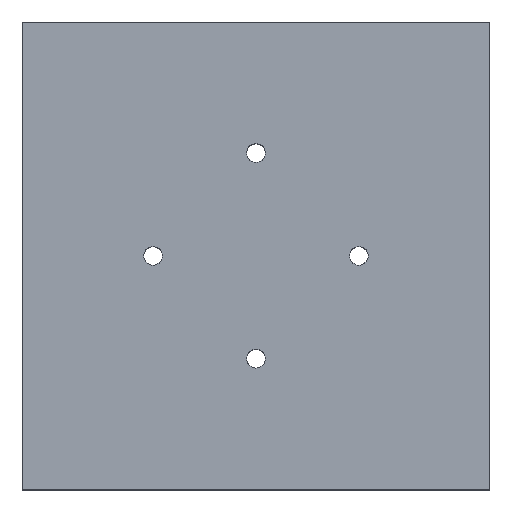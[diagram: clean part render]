
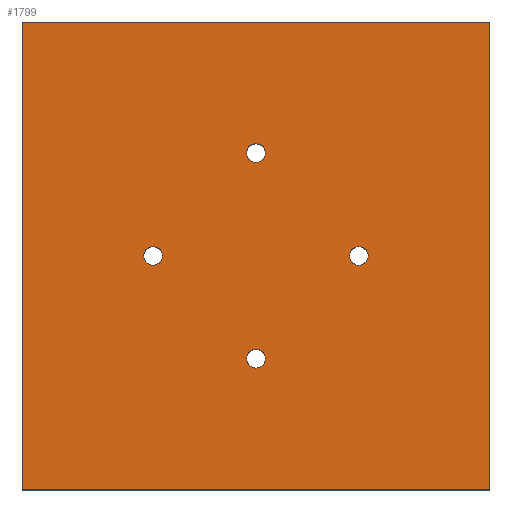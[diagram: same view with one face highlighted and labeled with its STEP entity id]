
A CAD part, top view. The second image highlights one B-rep face of the part: STEP entity #1799.
In plain terms, the highlighted planar face has unit normal (0, 0, 1).
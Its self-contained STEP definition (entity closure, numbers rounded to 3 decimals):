
#52 = CARTESIAN_POINT ( 'NONE',  ( 1., -11., 10. ) ) ;
#59 = CIRCLE ( 'NONE', #264, 1. ) ;
#66 = CARTESIAN_POINT ( 'NONE',  ( 0., -11., 10. ) ) ;
#130 = AXIS2_PLACEMENT_3D ( 'NONE', #1726, #615, #592 ) ;
#148 = CARTESIAN_POINT ( 'NONE',  ( -25., 25., 10. ) ) ;
#172 = EDGE_CURVE ( 'NONE', #1137, #718, #810, .T. ) ;
#188 = CARTESIAN_POINT ( 'NONE',  ( 0., 0., 10. ) ) ;
#232 = CIRCLE ( 'NONE', #130, 1. ) ;
#261 = DIRECTION ( 'NONE',  ( 0., 0., 1. ) ) ;
#264 = AXIS2_PLACEMENT_3D ( 'NONE', #642, #261, #1314 ) ;
#267 = AXIS2_PLACEMENT_3D ( 'NONE', #403, #586, #1249 ) ;
#273 = VECTOR ( 'NONE', #1030, 1000. ) ;
#293 = ORIENTED_EDGE ( 'NONE', *, *, #1225, .F. ) ;
#313 = LINE ( 'NONE', #148, #1347 ) ;
#324 = FACE_BOUND ( 'NONE', #1339, .T. ) ;
#338 = EDGE_CURVE ( 'NONE', #1085, #1662, #2120, .T. ) ;
#347 = CARTESIAN_POINT ( 'NONE',  ( 25., -25., 10. ) ) ;
#350 = AXIS2_PLACEMENT_3D ( 'NONE', #1428, #602, #564 ) ;
#353 = CIRCLE ( 'NONE', #2136, 1. ) ;
#386 = EDGE_LOOP ( 'NONE', ( #1251, #293 ) ) ;
#399 = DIRECTION ( 'NONE',  ( 1., 0., 0. ) ) ;
#403 = CARTESIAN_POINT ( 'NONE',  ( -11., 0., 10. ) ) ;
#404 = EDGE_CURVE ( 'NONE', #1443, #672, #2034, .T. ) ;
#435 = DIRECTION ( 'NONE',  ( 0., 0., 1. ) ) ;
#452 = CIRCLE ( 'NONE', #267, 1. ) ;
#458 = CARTESIAN_POINT ( 'NONE',  ( -25., -25., 10. ) ) ;
#487 = DIRECTION ( 'NONE',  ( 1., 0., 0. ) ) ;
#496 = AXIS2_PLACEMENT_3D ( 'NONE', #1633, #1125, #1308 ) ;
#506 = CARTESIAN_POINT ( 'NONE',  ( 10., 0., 10. ) ) ;
#507 = DIRECTION ( 'NONE',  ( 1., 0., 0. ) ) ;
#511 = CARTESIAN_POINT ( 'NONE',  ( -1., 11., 10. ) ) ;
#515 = VERTEX_POINT ( 'NONE', #1608 ) ;
#564 = DIRECTION ( 'NONE',  ( 1., 0., 0. ) ) ;
#573 = EDGE_CURVE ( 'NONE', #672, #1085, #313, .T. ) ;
#586 = DIRECTION ( 'NONE',  ( 0., 0., 1. ) ) ;
#592 = DIRECTION ( 'NONE',  ( 1., 0., 0. ) ) ;
#602 = DIRECTION ( 'NONE',  ( 0., 0., 1. ) ) ;
#615 = DIRECTION ( 'NONE',  ( 0., 0., 1. ) ) ;
#622 = CARTESIAN_POINT ( 'NONE',  ( -25., 25., 10. ) ) ;
#642 = CARTESIAN_POINT ( 'NONE',  ( 0., 11., 10. ) ) ;
#655 = DIRECTION ( 'NONE',  ( 1., 0., 0. ) ) ;
#660 = CARTESIAN_POINT ( 'NONE',  ( 25., 25., 10. ) ) ;
#672 = VERTEX_POINT ( 'NONE', #660 ) ;
#699 = ORIENTED_EDGE ( 'NONE', *, *, #1891, .F. ) ;
#704 = ORIENTED_EDGE ( 'NONE', *, *, #1082, .T. ) ;
#718 = VERTEX_POINT ( 'NONE', #506 ) ;
#747 = DIRECTION ( 'NONE',  ( 0., 0., 1. ) ) ;
#768 = ORIENTED_EDGE ( 'NONE', *, *, #1632, .F. ) ;
#772 = FACE_BOUND ( 'NONE', #1317, .T. ) ;
#790 = VERTEX_POINT ( 'NONE', #52 ) ;
#796 = DIRECTION ( 'NONE',  ( -1., 0., 0. ) ) ;
#804 = AXIS2_PLACEMENT_3D ( 'NONE', #66, #435, #923 ) ;
#810 = CIRCLE ( 'NONE', #1719, 1. ) ;
#841 = DIRECTION ( 'NONE',  ( 0., 0., 1. ) ) ;
#853 = PLANE ( 'NONE',  #1957 ) ;
#863 = ORIENTED_EDGE ( 'NONE', *, *, #573, .T. ) ;
#872 = EDGE_CURVE ( 'NONE', #1525, #2073, #59, .T. ) ;
#884 = VECTOR ( 'NONE', #1292, 1000. ) ;
#888 = LINE ( 'NONE', #1491, #1536 ) ;
#923 = DIRECTION ( 'NONE',  ( 1., 0., 0. ) ) ;
#964 = CARTESIAN_POINT ( 'NONE',  ( 1., 11., 10. ) ) ;
#980 = ORIENTED_EDGE ( 'NONE', *, *, #338, .T. ) ;
#983 = CARTESIAN_POINT ( 'NONE',  ( -25., 25., 10. ) ) ;
#1004 = ORIENTED_EDGE ( 'NONE', *, *, #872, .F. ) ;
#1030 = DIRECTION ( 'NONE',  ( 0., 1., 0. ) ) ;
#1048 = CIRCLE ( 'NONE', #496, 1. ) ;
#1056 = ORIENTED_EDGE ( 'NONE', *, *, #404, .T. ) ;
#1060 = EDGE_LOOP ( 'NONE', ( #980, #704, #1056, #863 ) ) ;
#1082 = EDGE_CURVE ( 'NONE', #1662, #1443, #888, .T. ) ;
#1085 = VERTEX_POINT ( 'NONE', #983 ) ;
#1125 = DIRECTION ( 'NONE',  ( 0., 0., 1. ) ) ;
#1132 = CARTESIAN_POINT ( 'NONE',  ( 11., 0., 10. ) ) ;
#1137 = VERTEX_POINT ( 'NONE', #1660 ) ;
#1181 = ORIENTED_EDGE ( 'NONE', *, *, #1669, .F. ) ;
#1204 = VERTEX_POINT ( 'NONE', #2070 ) ;
#1225 = EDGE_CURVE ( 'NONE', #718, #1137, #232, .T. ) ;
#1249 = DIRECTION ( 'NONE',  ( 1., 0., 0. ) ) ;
#1251 = ORIENTED_EDGE ( 'NONE', *, *, #172, .F. ) ;
#1264 = CARTESIAN_POINT ( 'NONE',  ( -11., 0., 10. ) ) ;
#1280 = EDGE_CURVE ( 'NONE', #515, #2059, #452, .T. ) ;
#1292 = DIRECTION ( 'NONE',  ( 0., -1., 0. ) ) ;
#1300 = CIRCLE ( 'NONE', #350, 1. ) ;
#1304 = CARTESIAN_POINT ( 'NONE',  ( -10., 0., 10. ) ) ;
#1308 = DIRECTION ( 'NONE',  ( 1., 0., 0. ) ) ;
#1314 = DIRECTION ( 'NONE',  ( 1., 0., 0. ) ) ;
#1317 = EDGE_LOOP ( 'NONE', ( #768, #1769 ) ) ;
#1339 = EDGE_LOOP ( 'NONE', ( #1181, #1004 ) ) ;
#1347 = VECTOR ( 'NONE', #796, 1000. ) ;
#1372 = FACE_BOUND ( 'NONE', #1922, .T. ) ;
#1428 = CARTESIAN_POINT ( 'NONE',  ( 0., -11., 10. ) ) ;
#1443 = VERTEX_POINT ( 'NONE', #347 ) ;
#1465 = CIRCLE ( 'NONE', #804, 1. ) ;
#1491 = CARTESIAN_POINT ( 'NONE',  ( -25., -25., 10. ) ) ;
#1516 = ORIENTED_EDGE ( 'NONE', *, *, #1280, .F. ) ;
#1525 = VERTEX_POINT ( 'NONE', #511 ) ;
#1536 = VECTOR ( 'NONE', #655, 1000. ) ;
#1543 = EDGE_CURVE ( 'NONE', #1204, #790, #1465, .T. ) ;
#1600 = FACE_BOUND ( 'NONE', #386, .T. ) ;
#1608 = CARTESIAN_POINT ( 'NONE',  ( -12., 0., 10. ) ) ;
#1632 = EDGE_CURVE ( 'NONE', #790, #1204, #1300, .T. ) ;
#1633 = CARTESIAN_POINT ( 'NONE',  ( 0., 11., 10. ) ) ;
#1650 = DIRECTION ( 'NONE',  ( 0., 0., 1. ) ) ;
#1653 = CARTESIAN_POINT ( 'NONE',  ( 25., 25., 10. ) ) ;
#1660 = CARTESIAN_POINT ( 'NONE',  ( 12., 0., 10. ) ) ;
#1662 = VERTEX_POINT ( 'NONE', #458 ) ;
#1669 = EDGE_CURVE ( 'NONE', #2073, #1525, #1048, .T. ) ;
#1719 = AXIS2_PLACEMENT_3D ( 'NONE', #1132, #1650, #487 ) ;
#1726 = CARTESIAN_POINT ( 'NONE',  ( 11., 0., 10. ) ) ;
#1769 = ORIENTED_EDGE ( 'NONE', *, *, #1543, .F. ) ;
#1799 = ADVANCED_FACE ( 'NONE', ( #324, #1600, #772, #1372, #2025 ), #853, .T. ) ;
#1891 = EDGE_CURVE ( 'NONE', #2059, #515, #353, .T. ) ;
#1922 = EDGE_LOOP ( 'NONE', ( #699, #1516 ) ) ;
#1957 = AXIS2_PLACEMENT_3D ( 'NONE', #188, #841, #507 ) ;
#2025 = FACE_OUTER_BOUND ( 'NONE', #1060, .T. ) ;
#2034 = LINE ( 'NONE', #1653, #273 ) ;
#2059 = VERTEX_POINT ( 'NONE', #1304 ) ;
#2070 = CARTESIAN_POINT ( 'NONE',  ( -1., -11., 10. ) ) ;
#2073 = VERTEX_POINT ( 'NONE', #964 ) ;
#2120 = LINE ( 'NONE', #622, #884 ) ;
#2136 = AXIS2_PLACEMENT_3D ( 'NONE', #1264, #747, #399 ) ;
